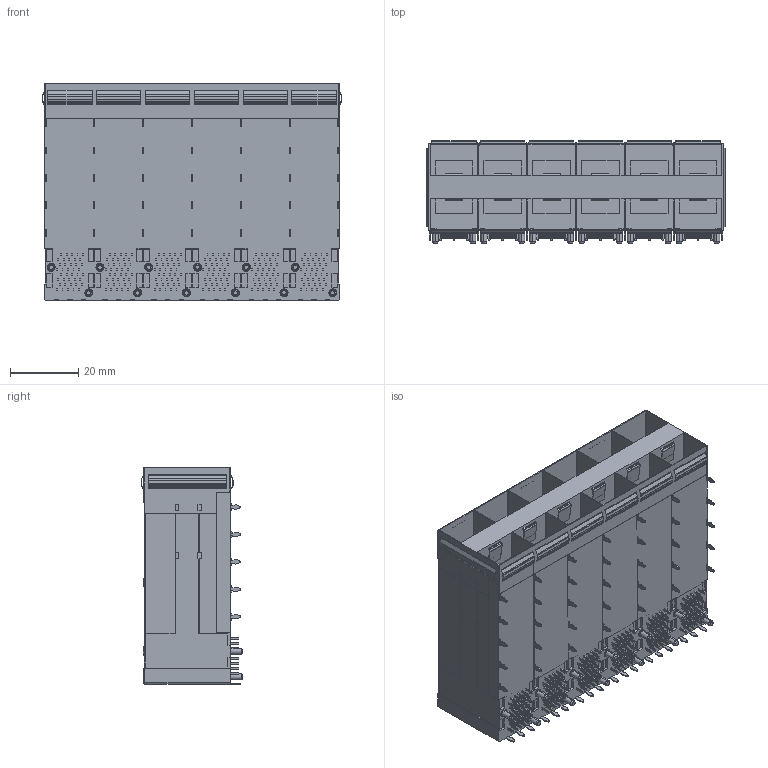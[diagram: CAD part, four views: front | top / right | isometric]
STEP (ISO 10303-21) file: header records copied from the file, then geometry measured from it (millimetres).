
FILE_DESCRIPTION (( 'STEP AP203' ), '1' );
FILE_NAME ('22600_SFP+ 2X6 拸絳嫖翐.STEP', '2024-06-05T00:37:28', ( '' ), ( '' ), 'SwSTEP 2.0', 'SolidWorks 2018', '' );
FILE_SCHEMA (( 'CONFIG_CONTROL_DESIGN' ));
Products named in the file (1): 22600_SFP+ 2X6 拸絳嫖翐
Bounding box: 87.56 x 29.78 x 63.25 mm (x, y, z)
Volume: 70090 mm3; surface area: 50027.1 mm2
Topology: 1 solids, 1 shells, 3079 faces, 8529 edges, 5786 vertices
Faces by surface type: plane 2305, cylinder 724, cone 48, sphere 2
Entity records: 98246 total; most frequent: CARTESIAN_POINT 17393, ORIENTED_EDGE 17054, DIRECTION 16187, EDGE_CURVE 8527, VECTOR 7027, LINE 7027, VERTEX_POINT 5786, AXIS2_PLACEMENT_3D 4580
